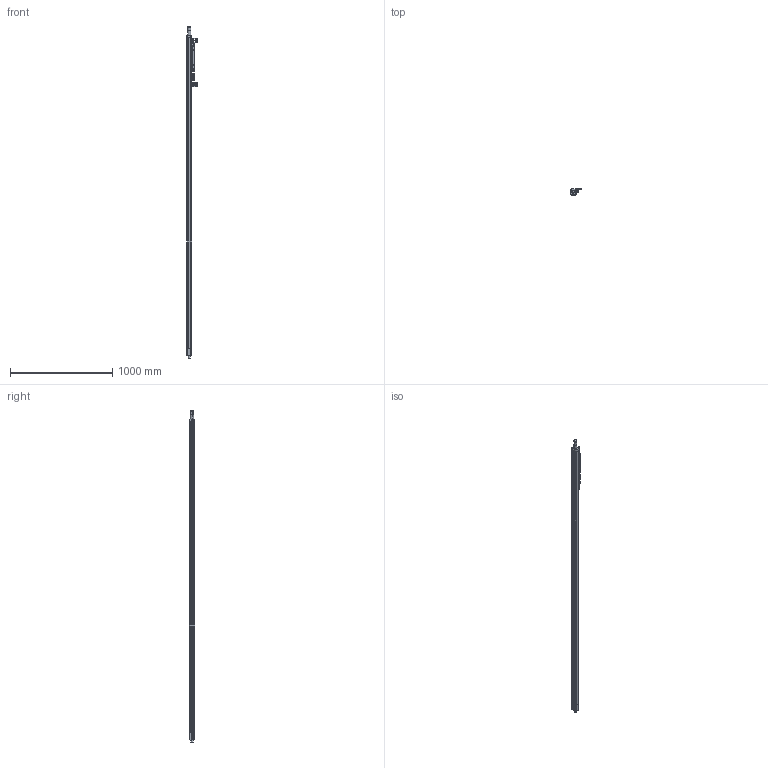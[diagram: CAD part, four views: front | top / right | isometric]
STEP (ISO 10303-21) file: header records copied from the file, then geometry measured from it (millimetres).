
FILE_DESCRIPTION((''),'2;1');
FILE_NAME('CP_3000_ml.stp','2007-11-12T13:05:29',(''),(''),'Mechanical Desktop 2008','Mechanical Desktop 2008',', , ');
FILE_SCHEMA(('CONFIG_CONTROL_DESIGN'));
Length unit declared in the file: millimetre
Products named in the file (20): COMPACT_PLUS_LV; KAPPE-CR-3D; SCHWENKWINKEL-270MM-; 347912-3D-; 347913-3D-; 347914-3D-; M6-GEWINDEBUCHSE; BUCHSE; PROFIL; SCHEIBE UND SCHNAPPLEISTEN; ~KAPPE-CR-3D; SCHWENKWINKEL; 347901-3D-; 347902-3D-; 347903-3D-; ~M6-GEWINDEBUCHSE; MESSING-BUCHSE; 347450-COMPACT-WINKEL-3D; MUTINGLAMPE; RM_SDB
Assembly tree (26 placements, depth 3):
  COMPACT_PLUS_LV
    KAPPE-CR-3D
    SCHWENKWINKEL-270MM-
      347912-3D-
      347913-3D-
      347914-3D-
      M6-GEWINDEBUCHSE  x2
      BUCHSE  x4
    PROFIL
    SCHEIBE UND SCHNAPPLEISTEN
    ~KAPPE-CR-3D
    SCHWENKWINKEL
      347901-3D-
      347902-3D-
      347903-3D-
      ~M6-GEWINDEBUCHSE  x2
      MESSING-BUCHSE  x2
    347450-COMPACT-WINKEL-3D  x2
    MUTINGLAMPE
    RM_SDB
Bounding box: 106.19 x 55.58 x 3247 mm (x, y, z)
Volume: 8092038 mm3; surface area: 1261709.1 mm2
Topology: 23 solids, 23 shells, 468 faces, 1212 edges, 822 vertices
Faces by surface type: cylinder 238, plane 228, cone 2
Entity records: 12447 total; most frequent: CARTESIAN_POINT 2642, DIRECTION 2064, ORIENTED_EDGE 1900, EDGE_CURVE 950, AXIS2_PLACEMENT_3D 744, VERTEX_POINT 638, VECTOR 576, LINE 576
